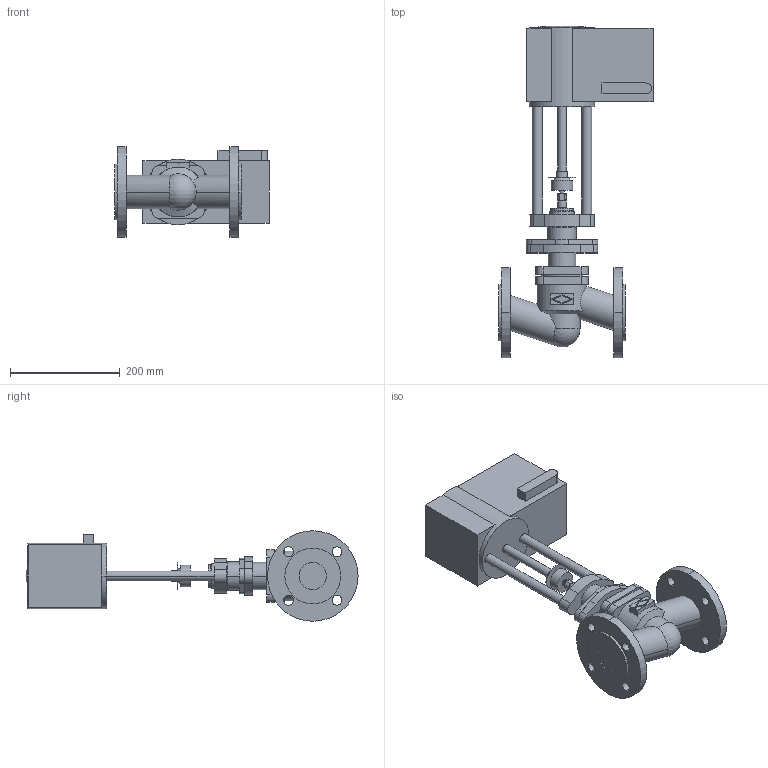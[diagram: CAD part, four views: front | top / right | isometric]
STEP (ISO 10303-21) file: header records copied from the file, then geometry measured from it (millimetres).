
FILE_DESCRIPTION(('Creo Elements/Direct Modeling STEP Export'),'2;1');
FILE_NAME('c000005072.stp','2013-06-04T 9:52:07',(''),(''),'Creo Elements/Direct Modeling STEP processor for AP203 (Solid Model)','Creo Elements/Direct Modeling 17.0D 15-Jul-2011 (C) Parametric Technology GmbH','');
FILE_SCHEMA(('CONFIG_CONTROL_DESIGN'));
Length unit declared in the file: millimetre
Products named in the file (5): 1; AnbauteileVentil; FR1.2
Assembly tree (2 placements, depth 2):
  1
  AnbauteileVentil
    AnbauteileVentil
  FR1.2
    FR1.2
Bounding box: 281 x 605.5 x 165 mm (x, y, z)
Volume: 6185974.1 mm3; surface area: 436119.3 mm2
Topology: 3 solids, 4 shells, 229 faces, 544 edges, 345 vertices
Faces by surface type: cylinder 100, plane 84, cone 26, torus 16, sphere 3
Entity records: 6995 total; most frequent: CARTESIAN_POINT 1458, ORIENTED_EDGE 1076, DIRECTION 1006, EDGE_CURVE 538, AXIS2_PLACEMENT_3D 380, VERTEX_POINT 345, EDGE_LOOP 275, VECTOR 246
